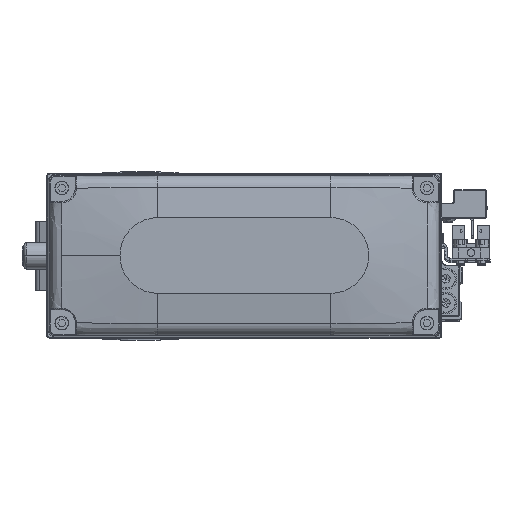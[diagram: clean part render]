
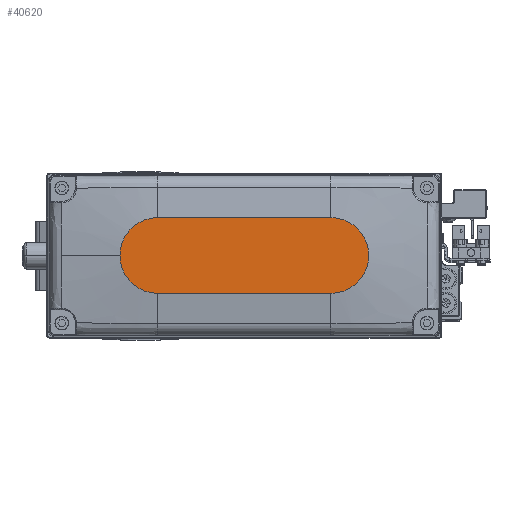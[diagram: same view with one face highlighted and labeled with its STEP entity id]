
A CAD part, top view. The second image highlights one B-rep face of the part: STEP entity #40620.
In plain terms, the highlighted planar face has unit normal (0, 0, 1).
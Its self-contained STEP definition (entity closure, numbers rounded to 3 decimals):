
#359 = EDGE_CURVE ( 'NONE', #42651, #40685, #42460, .T. ) ;
#1392 = CARTESIAN_POINT ( 'NONE',  ( 32., -14., 35. ) ) ;
#1514 = VECTOR ( 'NONE', #5929, 1000. ) ;
#2235 = EDGE_CURVE ( 'NONE', #17102, #5877, #28784, .T. ) ;
#2735 = CIRCLE ( 'NONE', #8470, 14. ) ;
#4994 = CARTESIAN_POINT ( 'NONE',  ( -32., 0., 35. ) ) ;
#5877 = VERTEX_POINT ( 'NONE', #12600 ) ;
#5929 = DIRECTION ( 'NONE',  ( 1., 0., 0. ) ) ;
#6038 = VECTOR ( 'NONE', #25360, 1000. ) ;
#6443 = DIRECTION ( 'NONE',  ( 0., 0., 1. ) ) ;
#8470 = AXIS2_PLACEMENT_3D ( 'NONE', #4994, #18732, #32495 ) ;
#8552 = DIRECTION ( 'NONE',  ( 1., 0., 0. ) ) ;
#8774 = CARTESIAN_POINT ( 'NONE',  ( -32., 14., 35. ) ) ;
#8919 = AXIS2_PLACEMENT_3D ( 'NONE', #25687, #39425, #8552 ) ;
#10173 = DIRECTION ( 'NONE',  ( 1., 0., 0. ) ) ;
#11151 = CARTESIAN_POINT ( 'NONE',  ( 32., 14., 35. ) ) ;
#11409 = EDGE_CURVE ( 'NONE', #5877, #42651, #13448, .T. ) ;
#11607 = CARTESIAN_POINT ( 'NONE',  ( -32., 14., 35. ) ) ;
#11921 = PLANE ( 'NONE',  #8919 ) ;
#12600 = CARTESIAN_POINT ( 'NONE',  ( 46., 0., 35. ) ) ;
#13448 = CIRCLE ( 'NONE', #38655, 14. ) ;
#16102 = ORIENTED_EDGE ( 'NONE', *, *, #20370, .T. ) ;
#17102 = VERTEX_POINT ( 'NONE', #1392 ) ;
#18732 = DIRECTION ( 'NONE',  ( 0., 0., 1. ) ) ;
#19556 = EDGE_CURVE ( 'NONE', #40685, #23856, #2735, .T. ) ;
#20202 = DIRECTION ( 'NONE',  ( 1., 0., 0. ) ) ;
#20370 = EDGE_CURVE ( 'NONE', #23856, #17102, #23053, .T. ) ;
#21544 = ORIENTED_EDGE ( 'NONE', *, *, #11409, .T. ) ;
#23053 = LINE ( 'NONE', #36810, #1514 ) ;
#23218 = ORIENTED_EDGE ( 'NONE', *, *, #2235, .T. ) ;
#23856 = VERTEX_POINT ( 'NONE', #39588 ) ;
#25360 = DIRECTION ( 'NONE',  ( -1., 0., 0. ) ) ;
#25687 = CARTESIAN_POINT ( 'NONE',  ( 0., 0., 35. ) ) ;
#26636 = ORIENTED_EDGE ( 'NONE', *, *, #359, .T. ) ;
#27226 = ORIENTED_EDGE ( 'NONE', *, *, #19556, .T. ) ;
#27322 = CARTESIAN_POINT ( 'NONE',  ( 32., 0., 35. ) ) ;
#28784 = CIRCLE ( 'NONE', #34505, 14. ) ;
#32495 = DIRECTION ( 'NONE',  ( 1., 0., 0. ) ) ;
#34505 = AXIS2_PLACEMENT_3D ( 'NONE', #27322, #41042, #10173 ) ;
#34938 = EDGE_LOOP ( 'NONE', ( #26636, #27226, #16102, #23218, #21544 ) ) ;
#36810 = CARTESIAN_POINT ( 'NONE',  ( -32., -14., 35. ) ) ;
#37327 = CARTESIAN_POINT ( 'NONE',  ( 32., 0., 35. ) ) ;
#38655 = AXIS2_PLACEMENT_3D ( 'NONE', #37327, #6443, #20202 ) ;
#39425 = DIRECTION ( 'NONE',  ( 0., 0., 1. ) ) ;
#39588 = CARTESIAN_POINT ( 'NONE',  ( -32., -14., 35. ) ) ;
#40620 = ADVANCED_FACE ( 'NONE', ( #42783 ), #11921, .T. ) ;
#40685 = VERTEX_POINT ( 'NONE', #8774 ) ;
#41042 = DIRECTION ( 'NONE',  ( 0., 0., 1. ) ) ;
#42460 = LINE ( 'NONE', #11607, #6038 ) ;
#42651 = VERTEX_POINT ( 'NONE', #11151 ) ;
#42783 = FACE_OUTER_BOUND ( 'NONE', #34938, .T. ) ;
